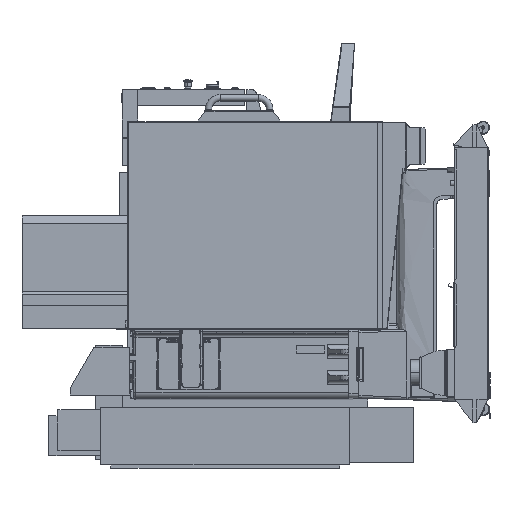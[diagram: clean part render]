
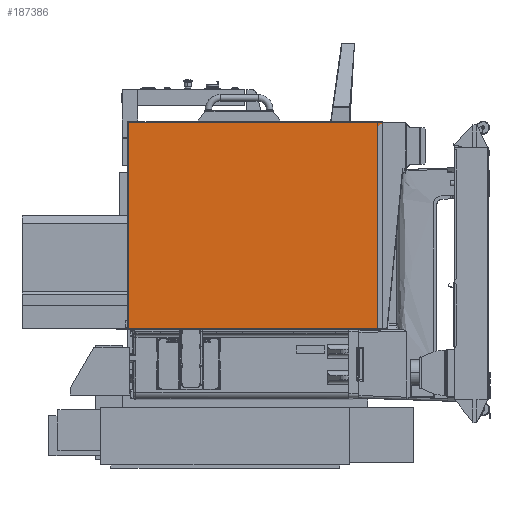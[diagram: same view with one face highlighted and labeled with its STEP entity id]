
A CAD part, left-side view. The second image highlights one B-rep face of the part: STEP entity #187386.
In plain terms, the highlighted planar face has unit normal (-1, 0, 0).
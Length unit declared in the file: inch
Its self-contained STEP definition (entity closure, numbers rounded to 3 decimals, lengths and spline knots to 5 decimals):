
#1579 = B_SPLINE_CURVE_WITH_KNOTS ( 'NONE', 3,
 ( #120598, #41682, #118095, #101453, #142239, #45433, #198264, #123120, #197037, #195798, #22535, #79859, #81104, #179184, #121856, #97706, #21310, #98964, #160111, #175449, #233927, #59497, #176691, #237668, #63263, #184216, #240173, #88639, #87381, #50475, #181683, #105209, #146025, #222360 ),
 .UNSPECIFIED., .F., .F.,
 ( 4, 2, 2, 2, 2, 2, 2, 2, 2, 2, 2, 2, 2, 2, 2, 2, 4 ),
 ( 0., 0.00391, 0.00781, 0.01562, 0.03125, 0.0625, 0.125, 0.25, 0.5, 0.75, 0.875, 0.9375, 0.96875, 0.98437, 0.99219, 0.99609, 1. ),
 .UNSPECIFIED. ) ;
#10712 = VERTEX_POINT ( 'NONE', #135748 ) ;
#13518 = EDGE_CURVE ( 'NONE', #154390, #159169, #158364, .T. ) ;
#16730 = LINE ( 'NONE', #115997, #228411 ) ;
#18291 = DIRECTION ( 'NONE',  ( 0., 0., 1. ) ) ;
#21310 = CARTESIAN_POINT ( 'NONE',  ( -26.7487, 19.60003, 2.5124 ) ) ;
#22535 = CARTESIAN_POINT ( 'NONE',  ( -26.7487, 1.77062, 2.5124 ) ) ;
#28680 = CARTESIAN_POINT ( 'NONE',  ( -26.74869, -0.77644, 2.5124 ) ) ;
#30163 = B_SPLINE_CURVE_WITH_KNOTS ( 'NONE', 3,
 ( #184027, #145827, #204394, #105011 ),
 .UNSPECIFIED., .F., .F.,
 ( 4, 4 ),
 ( 0., 1. ),
 .UNSPECIFIED. ) ;
#38371 = EDGE_CURVE ( 'NONE', #10712, #154390, #169469, .T. ) ;
#40585 = VERTEX_POINT ( 'NONE', #69298 ) ;
#41682 = CARTESIAN_POINT ( 'NONE',  ( -26.74878, -0.71276, 2.5124 ) ) ;
#45433 = CARTESIAN_POINT ( 'NONE',  ( -26.74872, -0.26703, 2.5124 ) ) ;
#50475 = CARTESIAN_POINT ( 'NONE',  ( -26.74869, 47.80872, 2.5124 ) ) ;
#52640 = VERTEX_POINT ( 'NONE', #97726 ) ;
#58464 = VERTEX_POINT ( 'NONE', #249154 ) ;
#59497 = CARTESIAN_POINT ( 'NONE',  ( -26.7487, 43.03298, 2.5124 ) ) ;
#63263 = CARTESIAN_POINT ( 'NONE',  ( -26.7487, 46.08945, 2.5124 ) ) ;
#67815 = VECTOR ( 'NONE', #108321, 39.37008 ) ;
#69298 = CARTESIAN_POINT ( 'NONE',  ( -26.74883, 48.1271, 2.5124 ) ) ;
#70688 = CARTESIAN_POINT ( 'NONE',  ( -26.7487, -0.77644, 2.4875 ) ) ;
#71923 = CARTESIAN_POINT ( 'NONE',  ( -26.7487, -0.77644, 2.4626 ) ) ;
#73359 = EDGE_CURVE ( 'NONE', #52640, #10712, #157202, .T. ) ;
#79859 = CARTESIAN_POINT ( 'NONE',  ( -26.74869, 3.29885, 2.5124 ) ) ;
#81104 = CARTESIAN_POINT ( 'NONE',  ( -26.7487, 4.31768, 2.5124 ) ) ;
#83131 = DIRECTION ( 'NONE',  ( 1., 0., 0. ) ) ;
#86906 = FACE_OUTER_BOUND ( 'NONE', #244754, .T. ) ;
#87381 = CARTESIAN_POINT ( 'NONE',  ( -26.74868, 47.61769, 2.5124 ) ) ;
#88639 = CARTESIAN_POINT ( 'NONE',  ( -26.7487, 47.49034, 2.5124 ) ) ;
#97706 = CARTESIAN_POINT ( 'NONE',  ( -26.7487, 15.52474, 2.5124 ) ) ;
#97726 = CARTESIAN_POINT ( 'NONE',  ( -26.74869, -0.77644, 2.5124 ) ) ;
#98964 = CARTESIAN_POINT ( 'NONE',  ( -26.7487, 27.75062, 2.5124 ) ) ;
#101453 = CARTESIAN_POINT ( 'NONE',  ( -26.74867, -0.52174, 2.5124 ) ) ;
#105011 = CARTESIAN_POINT ( 'NONE',  ( -26.7487, 48.1271, 42.448 ) ) ;
#105209 = CARTESIAN_POINT ( 'NONE',  ( -26.74866, 47.99975, 2.5124 ) ) ;
#108321 = DIRECTION ( 'NONE',  ( 0., -1., 0. ) ) ;
#115997 = CARTESIAN_POINT ( 'NONE',  ( -26.7487, 48.1271, 0. ) ) ;
#116314 = CARTESIAN_POINT ( 'NONE',  ( -26.7487, -0.95529, 42.468 ) ) ;
#118095 = CARTESIAN_POINT ( 'NONE',  ( -26.74872, -0.64909, 2.5124 ) ) ;
#120598 = CARTESIAN_POINT ( 'NONE',  ( -26.74869, -0.77644, 2.5124 ) ) ;
#121856 = CARTESIAN_POINT ( 'NONE',  ( -26.7487, 9.4118, 2.5124 ) ) ;
#123120 = CARTESIAN_POINT ( 'NONE',  ( -26.74868, 0.24238, 2.5124 ) ) ;
#125160 = CARTESIAN_POINT ( 'NONE',  ( -26.7487, 0., 0. ) ) ;
#131253 = EDGE_CURVE ( 'NONE', #52640, #40585, #1579, .T. ) ;
#135748 = CARTESIAN_POINT ( 'NONE',  ( -26.74882, -0.77644, 2.4377 ) ) ;
#142239 = CARTESIAN_POINT ( 'NONE',  ( -26.74866, -0.45806, 2.5124 ) ) ;
#143583 = ORIENTED_EDGE ( 'NONE', *, *, #152319, .T. ) ;
#145827 = CARTESIAN_POINT ( 'NONE',  ( -26.7487, 15.40551, 42.448 ) ) ;
#146025 = CARTESIAN_POINT ( 'NONE',  ( -26.74866, 48.06342, 2.5124 ) ) ;
#147878 = CARTESIAN_POINT ( 'NONE',  ( -26.7487, 0., 2.4377 ) ) ;
#152319 = EDGE_CURVE ( 'NONE', #159169, #58464, #30163, .T. ) ;
#154271 = DIRECTION ( 'NONE',  ( 0., 0., 1. ) ) ;
#154390 = VERTEX_POINT ( 'NONE', #205073 ) ;
#157202 = B_SPLINE_CURVE_WITH_KNOTS ( 'NONE', 3,
 ( #28680, #70688, #71923, #205665 ),
 .UNSPECIFIED., .F., .F.,
 ( 4, 4 ),
 ( 0., 1. ),
 .UNSPECIFIED. ) ;
#158364 = LINE ( 'NONE', #116314, #181626 ) ;
#159169 = VERTEX_POINT ( 'NONE', #217757 ) ;
#160111 = CARTESIAN_POINT ( 'NONE',  ( -26.7487, 31.82592, 2.5124 ) ) ;
#162152 = DIRECTION ( 'NONE',  ( 0., 0., -1. ) ) ;
#169469 = LINE ( 'NONE', #147878, #67815 ) ;
#173755 = AXIS2_PLACEMENT_3D ( 'NONE', #125160, #83131, #162152 ) ;
#175449 = CARTESIAN_POINT ( 'NONE',  ( -26.7487, 37.93886, 2.5124 ) ) ;
#176691 = CARTESIAN_POINT ( 'NONE',  ( -26.7487, 44.0518, 2.5124 ) ) ;
#179184 = CARTESIAN_POINT ( 'NONE',  ( -26.7487, 7.37415, 2.5124 ) ) ;
#181626 = VECTOR ( 'NONE', #18291, 39.37008 ) ;
#181683 = CARTESIAN_POINT ( 'NONE',  ( -26.74871, 47.87239, 2.5124 ) ) ;
#184027 = CARTESIAN_POINT ( 'NONE',  ( -26.7487, -0.95529, 42.448 ) ) ;
#184216 = CARTESIAN_POINT ( 'NONE',  ( -26.7487, 46.85357, 2.5124 ) ) ;
#187386 = ADVANCED_FACE ( 'NONE', ( #86906 ), #219403, .F. ) ;
#194070 = ORIENTED_EDGE ( 'NONE', *, *, #13518, .T. ) ;
#195798 = CARTESIAN_POINT ( 'NONE',  ( -26.74868, 1.26121, 2.5124 ) ) ;
#197037 = CARTESIAN_POINT ( 'NONE',  ( -26.74871, 0.49709, 2.5124 ) ) ;
#198264 = CARTESIAN_POINT ( 'NONE',  ( -26.7487, -0.13968, 2.5124 ) ) ;
#201073 = EDGE_CURVE ( 'NONE', #40585, #58464, #16730, .T. ) ;
#201141 = ORIENTED_EDGE ( 'NONE', *, *, #131253, .F. ) ;
#204394 = CARTESIAN_POINT ( 'NONE',  ( -26.7487, 31.7663, 42.448 ) ) ;
#205073 = CARTESIAN_POINT ( 'NONE',  ( -26.7487, -0.95529, 2.4377 ) ) ;
#205665 = CARTESIAN_POINT ( 'NONE',  ( -26.74882, -0.77644, 2.4377 ) ) ;
#206640 = ORIENTED_EDGE ( 'NONE', *, *, #73359, .T. ) ;
#217757 = CARTESIAN_POINT ( 'NONE',  ( -26.7487, -0.95529, 42.448 ) ) ;
#219403 = PLANE ( 'NONE',  #173755 ) ;
#222360 = CARTESIAN_POINT ( 'NONE',  ( -26.74883, 48.1271, 2.5124 ) ) ;
#222669 = ORIENTED_EDGE ( 'NONE', *, *, #38371, .T. ) ;
#228411 = VECTOR ( 'NONE', #154271, 39.37008 ) ;
#228938 = ORIENTED_EDGE ( 'NONE', *, *, #201073, .F. ) ;
#233927 = CARTESIAN_POINT ( 'NONE',  ( -26.7487, 39.97651, 2.5124 ) ) ;
#237668 = CARTESIAN_POINT ( 'NONE',  ( -26.7487, 45.58004, 2.5124 ) ) ;
#240173 = CARTESIAN_POINT ( 'NONE',  ( -26.7487, 47.10828, 2.5124 ) ) ;
#244754 = EDGE_LOOP ( 'NONE', ( #194070, #143583, #228938, #201141, #206640, #222669 ) ) ;
#249154 = CARTESIAN_POINT ( 'NONE',  ( -26.7487, 48.1271, 42.448 ) ) ;
